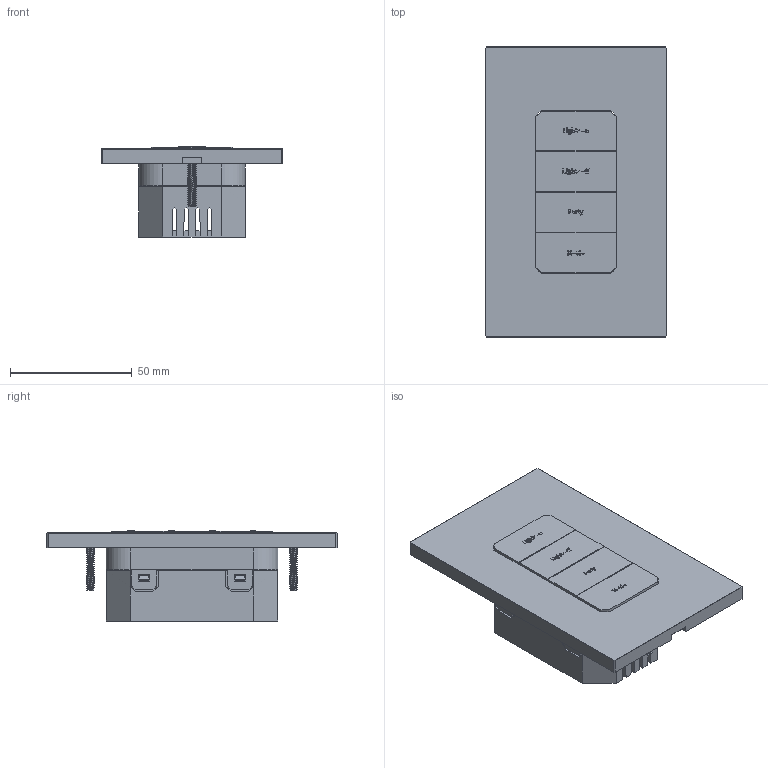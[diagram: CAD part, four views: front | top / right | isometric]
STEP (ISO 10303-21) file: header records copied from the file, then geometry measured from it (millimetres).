
FILE_DESCRIPTION(/* description */ (''),/* implementation_level */ '2;1');
FILE_NAME(/* name */ 'CASAMB~2',/* time_stamp */ '2026-02-02T17:00:24+08:00',/* author */ (''),/* organization */ (''),/* preprocessor_version */ 'ST-DEVELOPER v15',/* originating_system */ '',/* authorisation */ '');
FILE_SCHEMA (('AUTOMOTIVE_DESIGN'));
Length unit declared in the file: millimetre
Products named in the file (1): Document
Bounding box: 74.5 x 119 x 36.91 mm (x, y, z)
Volume: 94950.7 mm3; surface area: 86190.9 mm2
Topology: 44 solids, 46 shells, 1282 faces, 3836 edges, 2571 vertices
Faces by surface type: bspline 693, plane 589
Entity records: 63483 total; most frequent: CARTESIAN_POINT 40492, ORIENTED_EDGE 7146, EDGE_CURVE 3576, B_SPLINE_CURVE_WITH_KNOTS 3022, VERTEX_POINT 2393, EDGE_LOOP 1401, ADVANCED_FACE 1282, FACE_OUTER_BOUND 1282
